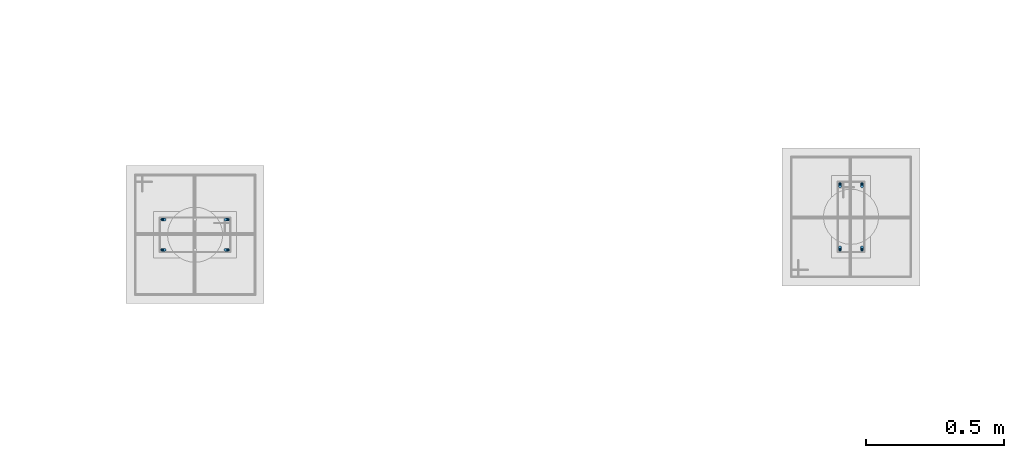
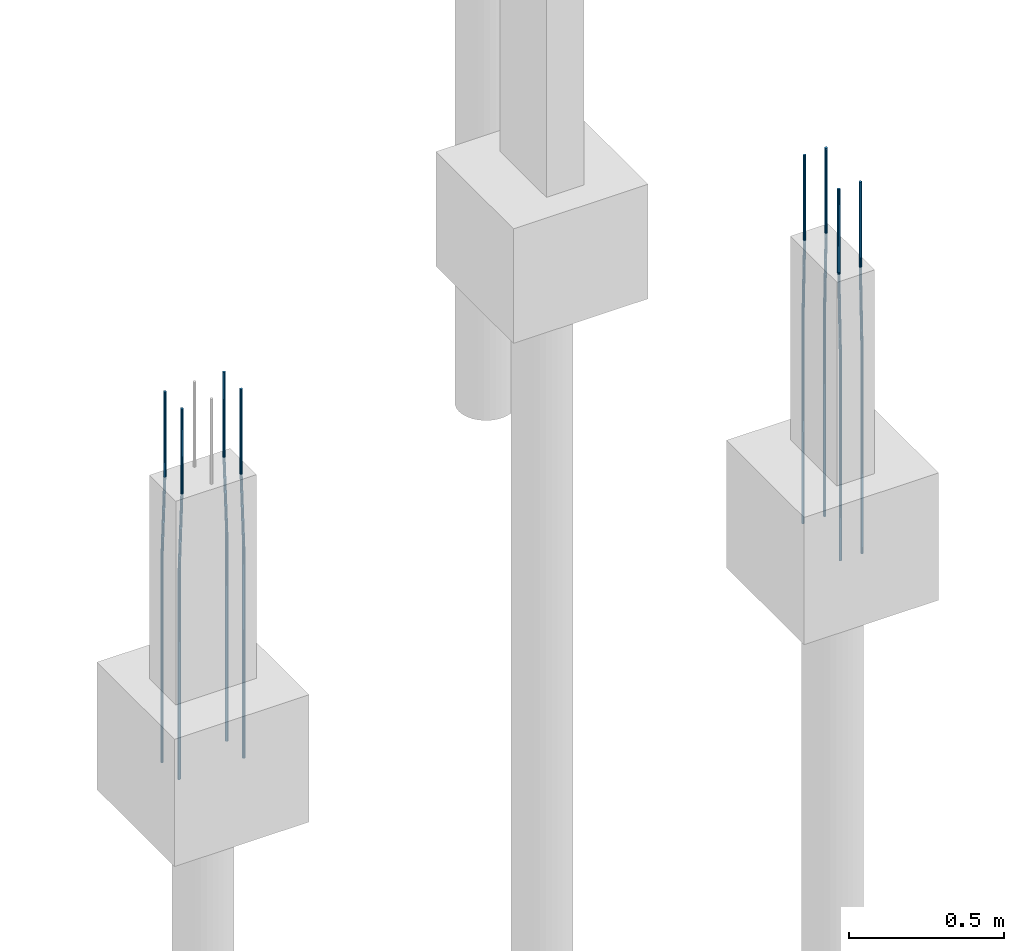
# One storey, part 23 of 119: 8 reinforcing bars.
"""IFC4 building model written with IfcOpenShell, lengths in centimetres."""

from ifc_helpers import new_model, entity, si_unit, derived_unit, frame, origin_with_axes, place, context, project, spatial, element, save


model = new_model("IFC4")

# Units and contexts
model_context = context("Model", 3, precision=1e-05, world=origin_with_axes(), identifier="Body")
ifc_project = project(units=[si_unit("LENGTHUNIT", "METRE", prefix="CENTI"), si_unit("VOLUMEUNIT", "CUBIC_METRE"), si_unit("AREAUNIT", "SQUARE_METRE"), si_unit("POWERUNIT", "WATT"), si_unit("LUMINOUSFLUXUNIT", "LUMEN"), si_unit("ELECTRICCURRENTUNIT", "AMPERE"), si_unit("PRESSUREUNIT", "PASCAL", prefix="KILO"), si_unit("MASSUNIT", "GRAM", prefix="KILO"), si_unit("PLANEANGLEUNIT", "RADIAN"), derived_unit("VOLUMETRICFLOWRATEUNIT", [(si_unit("LENGTHUNIT", "METRE"), 3), (si_unit("TIMEUNIT", "SECOND"), -1)])], contexts=[model_context])

# Site, building, storey
site_placement = place(None, frame((-4000.0, 0.0, 0.0), z_axis=(0.0, 0.0, 1.0), x_axis=(1.0, 0.0, 0.0)))
site = spatial("IfcSite", under=ifc_project, at=site_placement, Name="PADRÃO")
building_placement = place(site_placement, frame((0.0, 0.0, -14.0)))
building = spatial("IfcBuilding", under=site, at=building_placement, Name="CRECHE PRÉ-ESCOLA TIPO 2")
storey_placement = place(building_placement, origin_with_axes())
storey = spatial("IfcBuildingStorey", under=building, at=storey_placement, Name="FUNDAÇÃO", CompositionType="ELEMENT", Elevation=-14.0)

# Reinforcing bars
for number, where, z_axis, x_axis, name in (
    (1, (254.5, 1820.5, 33.3573001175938), (0.0, 0.0, 1.0), (1.0, 0.0, 0.0), "P94 - Longitudinal"),
    (2, (254.5, 1809.5, 33.3573001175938), (0.0, 0.0, 1.0), (1.0, 0.0, 0.0), "P94 - Longitudinal"),
):
    element("IfcReinforcingBar", number, at=place(storey_placement, frame(where, z_axis=z_axis, x_axis=x_axis)), inside=storey, Name=name, BarLength=0.0, CrossSectionArea=7.853981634e-05, NominalDiameter=1.0, PredefinedType="MAIN", context=model_context, shape_type="AdvancedSweptSolid", body=[
        entity("IfcSweptDiskSolid", entity("IfcCompositeCurve", [entity("IfcCompositeCurveSegment", "CONTINUOUS", True, entity("IfcPolyline", [entity("IfcCartesianPoint", [-0.5, 0.0, -145.357300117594]), entity("IfcCartesianPoint", [-0.5, 0.0, -63.3573001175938])])), entity("IfcCompositeCurveSegment", "CONTINUOUS", True, entity("IfcPolyline", [entity("IfcCartesianPoint", [-0.5, 0.0, -63.3573001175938]), entity("IfcCartesianPoint", [0.5, 0.0, -33.3573001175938])])), entity("IfcCompositeCurveSegment", "CONTINUOUS", True, entity("IfcPolyline", [entity("IfcCartesianPoint", [0.5, 0.0, -33.3573001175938]), entity("IfcCartesianPoint", [0.5, 0.0, 0.0])]))], False), 0.5),
    ])
for number, where, z_axis, x_axis, name in (
    (3, (277.5, 1809.5, 33.3573001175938), (0.0, 0.0, 1.0), (1.0, 0.0, 0.0), "P94 - Longitudinal"),
    (4, (277.5, 1820.5, 33.3573001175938), (0.0, 0.0, 1.0), (1.0, 0.0, 0.0), "P94 - Longitudinal"),
):
    element("IfcReinforcingBar", number, at=place(storey_placement, frame(where, z_axis=z_axis, x_axis=x_axis)), inside=storey, Name=name, BarLength=0.0, CrossSectionArea=7.853981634e-05, NominalDiameter=1.0, PredefinedType="MAIN", context=model_context, shape_type="AdvancedSweptSolid", body=[
        entity("IfcSweptDiskSolid", entity("IfcCompositeCurve", [entity("IfcCompositeCurveSegment", "CONTINUOUS", True, entity("IfcPolyline", [entity("IfcCartesianPoint", [0.5, 0.0, -145.357300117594]), entity("IfcCartesianPoint", [0.5, 0.0, -63.3573001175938])])), entity("IfcCompositeCurveSegment", "CONTINUOUS", True, entity("IfcPolyline", [entity("IfcCartesianPoint", [0.5, 0.0, -63.3573001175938]), entity("IfcCartesianPoint", [-0.5, 0.0, -33.3573001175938])])), entity("IfcCompositeCurveSegment", "CONTINUOUS", True, entity("IfcPolyline", [entity("IfcCartesianPoint", [-0.5, 0.0, -33.3573001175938]), entity("IfcCartesianPoint", [-0.5, 0.0, 0.0])]))], False), 0.5),
    ])
for number, where, z_axis, x_axis, name in (
    (5, (499.69, 1833.0, 33.3573001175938), (0.0, 0.0, 1.0), (1.0, 0.0, 0.0), "P95 - Longitudinal"),
    (6, (507.69, 1833.0, 33.3573001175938), (0.0, 0.0, 1.0), (1.0, 0.0, 0.0), "P95 - Longitudinal"),
):
    element("IfcReinforcingBar", number, at=place(storey_placement, frame(where, z_axis=z_axis, x_axis=x_axis)), inside=storey, Name=name, BarLength=0.0, CrossSectionArea=7.853981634e-05, NominalDiameter=1.0, PredefinedType="MAIN", context=model_context, shape_type="AdvancedSweptSolid", body=[
        entity("IfcSweptDiskSolid", entity("IfcCompositeCurve", [entity("IfcCompositeCurveSegment", "CONTINUOUS", True, entity("IfcPolyline", [entity("IfcCartesianPoint", [0.0, 0.5, -145.357300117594]), entity("IfcCartesianPoint", [0.0, 0.5, -63.3573001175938])])), entity("IfcCompositeCurveSegment", "CONTINUOUS", True, entity("IfcPolyline", [entity("IfcCartesianPoint", [0.0, 0.5, -63.3573001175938]), entity("IfcCartesianPoint", [0.0, -0.5, -33.3573001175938])])), entity("IfcCompositeCurveSegment", "CONTINUOUS", True, entity("IfcPolyline", [entity("IfcCartesianPoint", [0.0, -0.5, -33.3573001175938]), entity("IfcCartesianPoint", [0.0, -0.5, 0.0])]))], False), 0.5),
    ])
for number, where, z_axis, x_axis, name in (
    (7, (507.69, 1810.0, 33.3573001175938), (0.0, 0.0, 1.0), (1.0, 0.0, 0.0), "P95 - Longitudinal"),
    (8, (499.69, 1810.0, 33.3573001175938), (0.0, 0.0, 1.0), (1.0, 0.0, 0.0), "P95 - Longitudinal"),
):
    element("IfcReinforcingBar", number, at=place(storey_placement, frame(where, z_axis=z_axis, x_axis=x_axis)), inside=storey, Name=name, BarLength=0.0, CrossSectionArea=7.853981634e-05, NominalDiameter=1.0, PredefinedType="MAIN", context=model_context, shape_type="AdvancedSweptSolid", body=[
        entity("IfcSweptDiskSolid", entity("IfcCompositeCurve", [entity("IfcCompositeCurveSegment", "CONTINUOUS", True, entity("IfcPolyline", [entity("IfcCartesianPoint", [0.0, -0.5, -145.357300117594]), entity("IfcCartesianPoint", [0.0, -0.5, -63.3573001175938])])), entity("IfcCompositeCurveSegment", "CONTINUOUS", True, entity("IfcPolyline", [entity("IfcCartesianPoint", [0.0, -0.5, -63.3573001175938]), entity("IfcCartesianPoint", [0.0, 0.5, -33.3573001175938])])), entity("IfcCompositeCurveSegment", "CONTINUOUS", True, entity("IfcPolyline", [entity("IfcCartesianPoint", [0.0, 0.5, -33.3573001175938]), entity("IfcCartesianPoint", [0.0, 0.5, 0.0])]))], False), 0.5),
    ])

save(model, "model.ifc")
